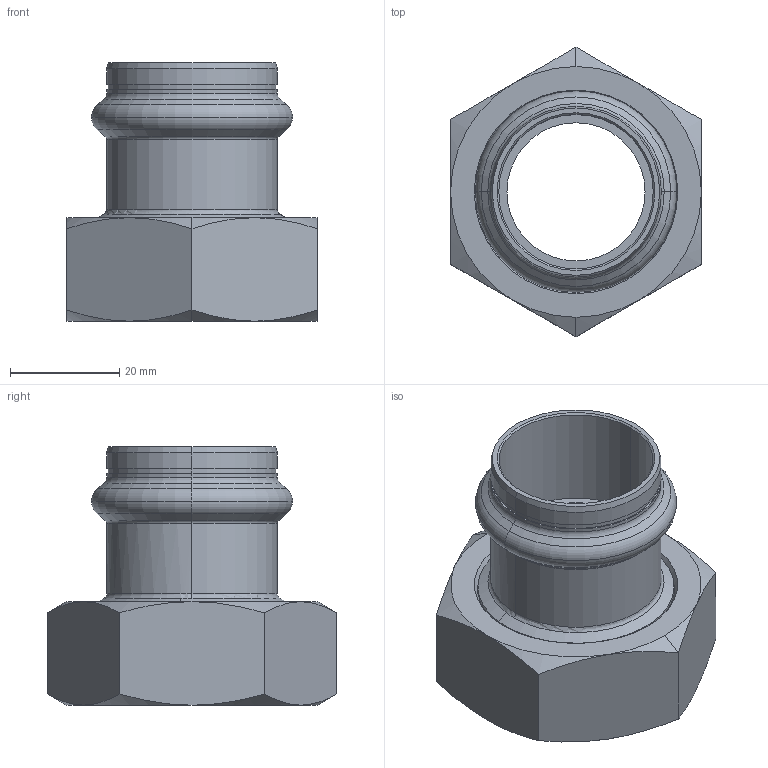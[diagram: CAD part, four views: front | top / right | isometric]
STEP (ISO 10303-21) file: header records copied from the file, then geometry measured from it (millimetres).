
FILE_DESCRIPTION(('CoCreate Modeling STEP Export'),'2;1');
FILE_NAME('8359GVW28114.stp','2013-03-05T13:43:31',(''),(''),'CoCreate Modeling STEP processor for AP214 (Solid Model)','CoCreate Modeling 17.00A 17-Jun-2010 (C) Parametric Technology GmbH','');
FILE_SCHEMA(('AUTOMOTIVE_DESIGN { 1 0 10303 214 1 1 1 1 }'));
Length unit declared in the file: millimetre
Products named in the file (3): MOER; Wartelpuntstuk_C-PR_28x5.1; 8359GVW28114
Assembly tree (2 placements, depth 2):
  8359GVW28114
    Wartelpuntstuk_C-PR_28x5.1
    MOER
Bounding box: 46 x 53.12 x 47.4 mm (x, y, z)
Volume: 22400 mm3; surface area: 15047.3 mm2
Topology: 2 solids, 2 shells, 94 faces, 214 edges, 128 vertices
Faces by surface type: cone 38, cylinder 28, torus 14, plane 14
Entity records: 3236 total; most frequent: CARTESIAN_POINT 1400, ORIENTED_EDGE 428, DIRECTION 278, EDGE_CURVE 214, VERTEX_POINT 128, AXIS2_PLACEMENT_3D 109, EDGE_LOOP 102, FACE_OUTER_BOUND 94
